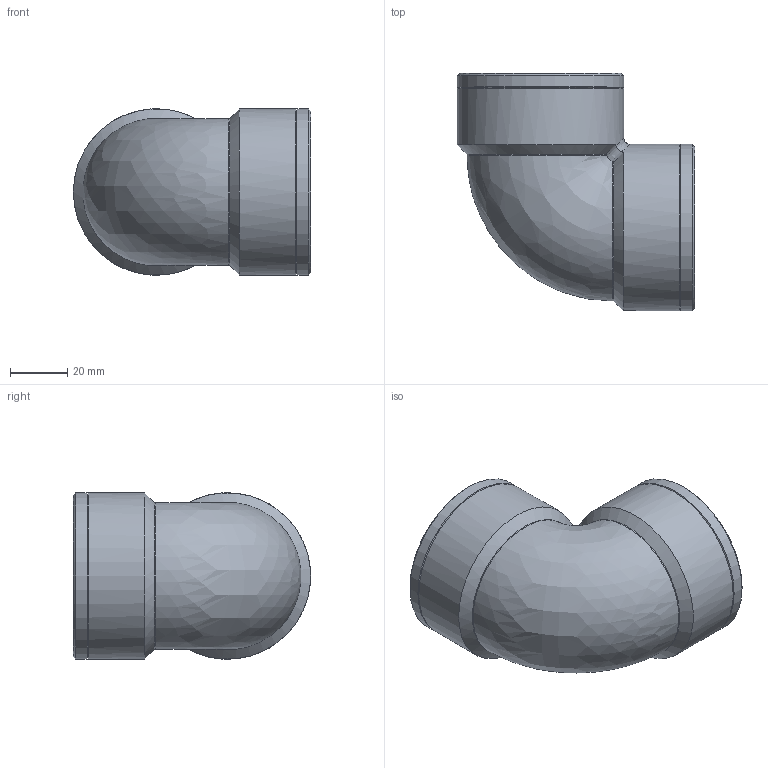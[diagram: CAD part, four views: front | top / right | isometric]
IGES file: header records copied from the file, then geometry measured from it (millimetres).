
Global section: file name: 050507015_0505070150A.ipt; native system: Autodesk Inventor 2015; preprocessor: unknown; author: KIM; date: 20170618.093217; units: millimetre
Bounding box: 83.15 x 83.15 x 58.3 mm (x, y, z)
Volume: 93864.1 mm3; surface area: 32648.9 mm2
Topology: 1 solids, 1 shells, 27 faces, 69 edges, 44 vertices
Faces by surface type: cone 8, revolution 8, cylinder 6, bspline 3, plane 2
Full cylindrical faces by diameter (mm): 58.298 x4
